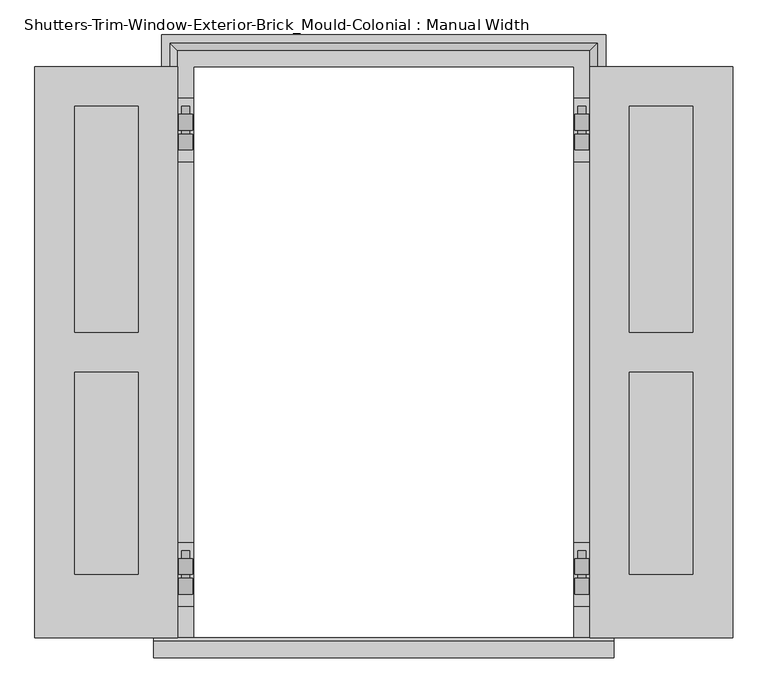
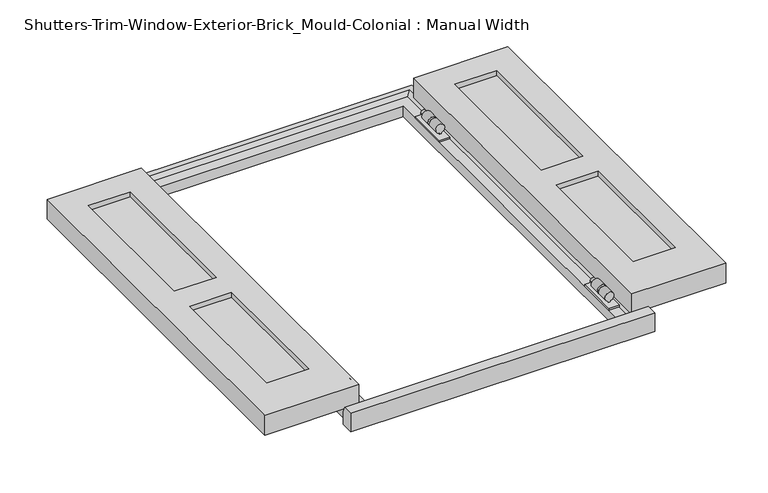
"""IFC4 building model written with IfcOpenShell, lengths in millimetres: proxy geometry, Shutters-Trim-Window-Exterior-Brick_Mould-Colonial : Manual Width."""

from ifc_helpers import new_model, si_unit, frame, origin, place, context, project, spatial, polyline, circle_curve, outline, extrude, faceted_brep, source, transform, mapped, element, save
from ifc_brep_helpers import plane_surface, cylinder_surface, revolved_surface, advanced_brep


def shutters_trim_window_exterior_brick_mould_colonial_manual_04c3bd9f(model_context):
    return source(origin(), model_context, "Body", "SolidModel", [
        extrude(outline(polyline([(-558.8, 0.0), (-330.2, 0.0), (-330.2, -914.4), (-558.8, -914.4), (-558.8, 0.0)]), holes=[polyline([(-495.3, -63.5), (-495.3, -425.45), (-393.7, -425.45), (-393.7, -63.5), (-495.3, -63.5)]), polyline([(-393.7, -488.95), (-495.3, -488.95), (-495.3, -812.8), (-393.7, -812.8), (-393.7, -488.95)])]), frame((0.0, 0.0, 38.89375), z_axis=(0.0, 0.0, 1.0), x_axis=(1.0, 0.0, 0.0)), (0.0, 0.0, 1.0), 50.8),
        extrude(outline(polyline([(-495.3, -63.5), (-393.7, -63.5), (-393.7, -425.45), (-495.3, -425.45), (-495.3, -63.5)])), frame((0.0, 0.0, 51.59375), z_axis=(0.0, 0.0, 1.0), x_axis=(1.0, 0.0, 0.0)), (0.0, 0.0, 1.0), 25.4),
        extrude(outline(polyline([(-393.7, -488.95), (-393.7, -812.8), (-495.3, -812.8), (-495.3, -488.95), (-393.7, -488.95)])), frame((0.0, 0.0, 51.59375), z_axis=(0.0, 0.0, 1.0), x_axis=(1.0, 0.0, 0.0)), (0.0, 0.0, 1.0), 25.4),
        extrude(outline(polyline([(558.8, 0.0), (558.8, -914.4), (330.2, -914.4), (330.2, 0.0), (558.8, 0.0)]), holes=[polyline([(495.3, -63.5), (393.7, -63.5), (393.7, -425.45), (495.3, -425.45), (495.3, -63.5)]), polyline([(393.7, -488.95), (393.7, -812.8), (495.3, -812.8), (495.3, -488.95), (393.7, -488.95)])]), frame((0.0, 0.0, 38.89375), z_axis=(0.0, 0.0, 1.0), x_axis=(1.0, 0.0, 0.0)), (0.0, 0.0, 1.0), 50.8),
        extrude(outline(polyline([(495.3, -63.5), (495.3, -425.45), (393.7, -425.45), (393.7, -63.5), (495.3, -63.5)])), frame((0.0, 0.0, 51.59375), z_axis=(0.0, 0.0, 1.0), x_axis=(1.0, 0.0, 0.0)), (0.0, 0.0, 1.0), 25.4),
        extrude(outline(polyline([(393.7, -488.95), (495.3, -488.95), (495.3, -812.8), (393.7, -812.8), (393.7, -488.95)])), frame((0.0, 0.0, 51.59375), z_axis=(0.0, 0.0, 1.0), x_axis=(1.0, 0.0, 0.0)), (0.0, 0.0, 1.0), 25.4),
        extrude(outline(polyline([(-330.2, -762.0), (-304.8, -762.0), (-304.8, -863.6), (-330.2, -863.6), (-330.2, -762.0)])), frame((0.0, 0.0, 26.19375), z_axis=(0.0, 0.0, 1.0), x_axis=(1.0, 0.0, 0.0)), (0.0, 0.0, 1.0), 4.7625),
        advanced_brep(
        [(-382.5875, -774.7, 38.89375), (-357.124, -774.7, 38.89375), (-357.124, -774.7, 34.13125), (-382.5875, -774.7, 34.13125), (-382.5875, -825.5, 34.13125), (-357.124, -825.5, 34.13125), (-357.124, -825.5, 38.89375), (-382.5875, -825.5, 38.89375), (-357.124, -787.4, 34.13125), (-317.5, -787.4, 34.13125), (-317.5, -812.8, 34.13125), (-357.124, -812.8, 34.13125), (-357.124, -812.8, 38.89375), (-317.5, -812.8, 38.89375), (-317.5, -787.4, 38.89375), (-357.124, -787.4, 38.89375), (-323.85, -812.8, 45.24375), (-323.85, -787.4, 45.24375), (-323.85, -812.8, 40.48125), (-323.85, -787.4, 40.48125), (-328.6125, -812.8, 40.48125), (-328.6125, -787.4, 40.48125), (-328.6125, -812.8, 45.24375), (-328.6125, -787.4, 45.24375)],
        [
            (0, 1),
            (1, 2),
            (2, 3),
            (3, 0),
            (4, 5),
            (5, 6),
            (6, 7),
            (7, 4),
            (2, 8),
            (8, 9),
            (9, 10),
            (10, 11),
            (11, 5),
            (4, 3),
            (7, 0),
            (6, 12),
            (12, 13),
            (13, 14),
            (14, 15),
            (15, 1),
            (16, 17),
            (17, 14, circle_curve(frame((-317.5, -787.4, 45.24375), z_axis=(0.0, 1.0, 0.0), x_axis=(1.0, 0.0, 0.0)), 6.35)),
            (13, 16, circle_curve(frame((-317.5, -812.8, 45.24375), z_axis=(0.0, -1.0, 0.0), x_axis=(1.0, 0.0, 0.0)), 6.35)),
            (18, 19),
            (19, 17),
            (16, 18),
            (20, 21),
            (21, 19),
            (18, 20),
            (22, 23),
            (23, 21),
            (20, 22),
            (9, 23, circle_curve(frame((-317.5, -787.4, 45.24375), z_axis=(0.0, -1.0, 0.0), x_axis=(1.0, 0.0, 0.0)), 11.1125)),
            (22, 10, circle_curve(frame((-317.5, -812.8, 45.24375), z_axis=(0.0, 1.0, 0.0), x_axis=(1.0, 0.0, 0.0)), 11.1125)),
            (12, 11),
            (8, 15),
        ],
        [
            plane_surface(frame((-317.5, -774.7, 45.24375), z_axis=(0.0, 1.0, 0.0), x_axis=(0.0, 0.0, 1.0))),
            plane_surface(frame((-317.5, -825.5, 45.24375), z_axis=(0.0, -1.0, 0.0), x_axis=(0.0, 0.0, 1.0))),
            plane_surface(frame((-382.5875, -774.7, 34.13125), z_axis=(0.0, 0.0, -1.0), x_axis=(0.0, -1.0, 0.0))),
            plane_surface(frame((-382.5875, -774.7, 38.89375), z_axis=(-1.0, 0.0, 0.0), x_axis=(0.0, -1.0, 0.0))),
            plane_surface(frame((-317.5, -774.7, 38.89375), z_axis=(0.0, 0.0, 1.0), x_axis=(0.0, -1.0, 0.0))),
            revolved_surface(polyline([(-311.15, -812.8, 45.24375), (-311.15, -787.4, 45.24375)]), (-317.5, -774.7, 45.24375), (0.0, -1.0, 0.0)),
            plane_surface(frame((-323.85, -774.7, 40.48125), z_axis=(1.0, 0.0, 0.0), x_axis=(0.0, -1.0, 0.0))),
            plane_surface(frame((-328.6125, -774.7, 40.48125), z_axis=(0.0, 0.0, -1.0), x_axis=(0.0, -1.0, 0.0))),
            plane_surface(frame((-328.6125, -774.7, 45.24375), z_axis=(-1.0, 0.0, 0.0), x_axis=(0.0, -1.0, 0.0))),
            cylinder_surface(frame((-317.5, -774.7, 45.24375), z_axis=(0.0, 1.0, 0.0), x_axis=(1.0, 0.0, 0.0)), 11.1125),
            plane_surface(frame((-317.5, -812.8, 45.24375), z_axis=(0.0, -1.0, 0.0), x_axis=(0.0, 0.0, 1.0))),
            plane_surface(frame((-357.124, -812.8, 38.89375), z_axis=(1.0, 0.0, 0.0), x_axis=(0.0, -1.0, 0.0))),
            plane_surface(frame((-317.5, -787.4, 45.24375), z_axis=(0.0, 1.0, 0.0), x_axis=(0.0, 0.0, 1.0))),
            plane_surface(frame((-357.124, -774.7, 38.89375), z_axis=(1.0, 0.0, 0.0), x_axis=(0.0, -1.0, 0.0))),
        ],
        [
            (0, [[1, 2, 3, 4]]),
            (1, [[5, 6, 7, 8]]),
            (2, [[-3, 9, 10, 11, 12, 13, -5, 14]]),
            (3, [[-14, -8, 15, -4]]),
            (4, [[-7, 16, 17, 18, 19, 20, -1, -15]]),
            (5, [[21, 22, -18, 23]]),
            (6, [[24, 25, -21, 26]]),
            (7, [[27, 28, -24, 29]]),
            (8, [[30, 31, -27, 32]]),
            (9, [[-11, 33, -30, 34]]),
            (10, [[-12, -34, -32, -29, -26, -23, -17, 35]]),
            (11, [[-16, -6, -13, -35]]),
            (12, [[-19, -22, -25, -28, -31, -33, -10, 36]]),
            (13, [[-9, -2, -20, -36]]),
        ],
    ),
        advanced_brep(
        [(-319.88125, -819.15, 30.95625), (-319.88125, -819.15, 34.389382), (-315.11875, -819.15, 34.389382), (-315.11875, -819.15, 30.95625), (-311.15, -819.15, 45.24375), (-323.85, -819.15, 45.24375), (-319.88125, -844.55, 30.95625), (-315.11875, -844.55, 30.95625), (-315.11875, -844.55, 34.389382), (-319.88125, -844.55, 34.389382), (-323.85, -774.7, 45.24375), (-311.15, -774.7, 45.24375)],
        [
            (0, 1),
            (1, 2, circle_curve(frame((-317.5, -819.15, 45.24375), z_axis=(0.0, 1.0, 0.0), x_axis=(1.0, 0.0, 0.0)), 11.1125)),
            (2, 3),
            (3, 0),
            (4, 5, circle_curve(frame((-317.5, -819.15, 45.24375), z_axis=(0.0, -1.0, 0.0), x_axis=(1.0, 0.0, 0.0)), 6.35)),
            (5, 4, circle_curve(frame((-317.5, -819.15, 45.24375), z_axis=(0.0, -1.0, 0.0), x_axis=(1.0, 0.0, 0.0)), 6.35)),
            (6, 7),
            (7, 8),
            (8, 9, circle_curve(frame((-317.5, -844.55, 45.24375), z_axis=(0.0, -1.0, 0.0), x_axis=(1.0, 0.0, 0.0)), 11.1125)),
            (9, 6),
            (0, 6),
            (9, 1),
            (3, 7),
            (2, 8),
            (10, 11, circle_curve(frame((-317.5, -774.7, 45.24375), z_axis=(0.0, 1.0, 0.0), x_axis=(1.0, 0.0, 0.0)), 6.35)),
            (11, 10, circle_curve(frame((-317.5, -774.7, 45.24375), z_axis=(0.0, 1.0, 0.0), x_axis=(1.0, 0.0, 0.0)), 6.35)),
            (11, 4),
            (5, 10),
        ],
        [
            plane_surface(frame((-315.11875, -819.15, 30.95625), z_axis=(0.0, 1.0, 0.0), x_axis=(1.0, 0.0, 6.242784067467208e-12))),
            plane_surface(frame((-315.11875, -844.55, 30.95625), z_axis=(0.0, -1.0, 0.0), x_axis=(-1.0, 0.0, -6.242784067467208e-12))),
            plane_surface(frame((-319.88125, -819.15, 34.389382), z_axis=(-1.0, 0.0, 0.0), x_axis=(0.0, -1.0, 0.0))),
            plane_surface(frame((-319.88125, -819.15, 30.95625), z_axis=(6.242784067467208e-12, 0.0, -1.0), x_axis=(0.0, -1.0, 0.0))),
            plane_surface(frame((-315.11875, -819.15, 30.95625), z_axis=(1.0, 0.0, 0.0), x_axis=(0.0, -1.0, 0.0))),
            cylinder_surface(frame((-317.5, -844.55, 45.24375), z_axis=(0.0, 1.0, 0.0), x_axis=(1.0, 0.0, 0.0)), 11.1125),
            plane_surface(frame((-311.15, -774.7, 45.24375), z_axis=(0.0, 1.0, 0.0), x_axis=(0.0, 0.0, 1.0))),
            cylinder_surface(frame((-317.5, -844.55, 45.24375), z_axis=(0.0, 1.0, 0.0), x_axis=(1.0, 0.0, 0.0)), 6.35),
        ],
        [
            (0, [[1, 2, 3, 4], [5, 6]]),
            (1, [[7, 8, 9, 10]]),
            (2, [[11, -10, 12, -1]]),
            (3, [[13, -7, -11, -4]]),
            (4, [[14, -8, -13, -3]]),
            (5, [[-12, -9, -14, -2]]),
            (6, [[15, 16]]),
            (7, [[17, -6, 18, -16]]),
            (7, [[-18, -5, -17, -15]]),
        ],
    ),
        extrude(outline(polyline([(330.2, -762.0), (330.2, -863.6), (304.8, -863.6), (304.8, -762.0), (330.2, -762.0)])), frame((0.0, 0.0, 26.19375), z_axis=(0.0, 0.0, 1.0), x_axis=(1.0, 0.0, 0.0)), (0.0, 0.0, 1.0), 4.7625),
        advanced_brep(
        [(382.5875, -774.7, 38.89375), (382.5875, -774.7, 34.13125), (357.124, -774.7, 34.13125), (357.124, -774.7, 38.89375), (382.5875, -825.5, 34.13125), (382.5875, -825.5, 38.89375), (357.124, -825.5, 38.89375), (357.124, -825.5, 34.13125), (357.124, -812.8, 34.13125), (317.5, -812.8, 34.13125), (317.5, -787.4, 34.13125), (357.124, -787.4, 34.13125), (357.124, -787.4, 38.89375), (317.5, -787.4, 38.89375), (317.5, -812.8, 38.89375), (357.124, -812.8, 38.89375), (323.85, -812.8, 45.24375), (323.85, -787.4, 45.24375), (323.85, -812.8, 40.48125), (323.85, -787.4, 40.48125), (328.6125, -812.8, 40.48125), (328.6125, -787.4, 40.48125), (328.6125, -812.8, 45.24375), (328.6125, -787.4, 45.24375)],
        [
            (0, 1),
            (1, 2),
            (2, 3),
            (3, 0),
            (4, 5),
            (5, 6),
            (6, 7),
            (7, 4),
            (1, 4),
            (7, 8),
            (8, 9),
            (9, 10),
            (10, 11),
            (11, 2),
            (0, 5),
            (3, 12),
            (12, 13),
            (13, 14),
            (14, 15),
            (15, 6),
            (16, 14, circle_curve(frame((317.5, -812.8, 45.24375), z_axis=(0.0, -1.0, 0.0), x_axis=(-1.0, 0.0, 0.0)), 6.35)),
            (13, 17, circle_curve(frame((317.5, -787.4, 45.24375), z_axis=(0.0, 1.0, 0.0), x_axis=(-1.0, 0.0, 0.0)), 6.35)),
            (17, 16),
            (18, 16),
            (17, 19),
            (19, 18),
            (20, 18),
            (19, 21),
            (21, 20),
            (22, 20),
            (21, 23),
            (23, 22),
            (9, 22, circle_curve(frame((317.5, -812.8, 45.24375), z_axis=(0.0, 1.0, 0.0), x_axis=(-1.0, 0.0, 0.0)), 11.1125)),
            (23, 10, circle_curve(frame((317.5, -787.4, 45.24375), z_axis=(0.0, -1.0, 0.0), x_axis=(-1.0, 0.0, 0.0)), 11.1125)),
            (8, 15),
            (12, 11),
        ],
        [
            plane_surface(frame((317.5, -774.7, 45.24375), z_axis=(0.0, 1.0, 0.0), x_axis=(0.0, 0.0, 1.0))),
            plane_surface(frame((317.5, -825.5, 45.24375), z_axis=(0.0, -1.0, 0.0), x_axis=(0.0, 0.0, 1.0))),
            plane_surface(frame((382.5875, -774.7, 34.13125), z_axis=(0.0, 0.0, -1.0), x_axis=(0.0, -1.0, 0.0))),
            plane_surface(frame((382.5875, -774.7, 38.89375), z_axis=(1.0, 0.0, 0.0), x_axis=(0.0, -1.0, 0.0))),
            plane_surface(frame((317.5, -774.7, 38.89375), z_axis=(0.0, 0.0, 1.0), x_axis=(0.0, -1.0, 0.0))),
            revolved_surface(polyline([(311.15, -812.8, 45.24375), (311.15, -787.4, 45.24375)]), (317.5, -774.7, 45.24375), (0.0, -1.0, 0.0)),
            plane_surface(frame((323.85, -774.7, 40.48125), z_axis=(-1.0, 0.0, 0.0), x_axis=(0.0, -1.0, 0.0))),
            plane_surface(frame((328.6125, -774.7, 40.48125), z_axis=(0.0, 0.0, -1.0), x_axis=(0.0, -1.0, 0.0))),
            plane_surface(frame((328.6125, -774.7, 45.24375), z_axis=(1.0, 0.0, 0.0), x_axis=(0.0, -1.0, 0.0))),
            cylinder_surface(frame((317.5, -774.7, 45.24375), z_axis=(0.0, 1.0, 0.0), x_axis=(-1.0, 0.0, 0.0)), 11.1125),
            plane_surface(frame((317.5, -812.8, 45.24375), z_axis=(0.0, -1.0, 0.0), x_axis=(0.0, 0.0, 1.0))),
            plane_surface(frame((357.124, -812.8, 38.89375), z_axis=(-1.0, 0.0, 0.0), x_axis=(0.0, -1.0, 0.0))),
            plane_surface(frame((317.5, -787.4, 45.24375), z_axis=(0.0, 1.0, 0.0), x_axis=(0.0, 0.0, 1.0))),
            plane_surface(frame((357.124, -774.7, 38.89375), z_axis=(-1.0, 0.0, 0.0), x_axis=(0.0, -1.0, 0.0))),
        ],
        [
            (0, [[1, 2, 3, 4]]),
            (1, [[5, 6, 7, 8]]),
            (2, [[9, -8, 10, 11, 12, 13, 14, -2]]),
            (3, [[-1, 15, -5, -9]]),
            (4, [[-15, -4, 16, 17, 18, 19, 20, -6]]),
            (5, [[21, -18, 22, 23]]),
            (6, [[24, -23, 25, 26]]),
            (7, [[27, -26, 28, 29]]),
            (8, [[30, -29, 31, 32]]),
            (9, [[33, -32, 34, -12]]),
            (10, [[35, -19, -21, -24, -27, -30, -33, -11]]),
            (11, [[-35, -10, -7, -20]]),
            (12, [[36, -13, -34, -31, -28, -25, -22, -17]]),
            (13, [[-36, -16, -3, -14]]),
        ],
    ),
        advanced_brep(
        [(319.88125, -819.15, 30.95625), (315.11875, -819.15, 30.95625), (315.11875, -819.15, 34.389382), (319.88125, -819.15, 34.389382), (311.15, -819.15, 45.24375), (323.85, -819.15, 45.24375), (319.88125, -844.55, 30.95625), (319.88125, -844.55, 34.389382), (315.11875, -844.55, 34.389382), (315.11875, -844.55, 30.95625), (323.85, -774.7, 45.24375), (311.15, -774.7, 45.24375)],
        [
            (0, 1),
            (1, 2),
            (2, 3, circle_curve(frame((317.5, -819.15, 45.24375), z_axis=(0.0, 1.0, 0.0), x_axis=(-1.0, 0.0, 0.0)), 11.1125)),
            (3, 0),
            (4, 5, circle_curve(frame((317.5, -819.15, 45.24375), z_axis=(0.0, -1.0, 0.0), x_axis=(-1.0, 0.0, 0.0)), 6.35)),
            (5, 4, circle_curve(frame((317.5, -819.15, 45.24375), z_axis=(0.0, -1.0, 0.0), x_axis=(-1.0, 0.0, 0.0)), 6.35)),
            (6, 7),
            (7, 8, circle_curve(frame((317.5, -844.55, 45.24375), z_axis=(0.0, -1.0, 0.0), x_axis=(-1.0, 0.0, 0.0)), 11.1125)),
            (8, 9),
            (9, 6),
            (3, 7),
            (6, 0),
            (9, 1),
            (8, 2),
            (10, 11, circle_curve(frame((317.5, -774.7, 45.24375), z_axis=(0.0, 1.0, 0.0), x_axis=(-1.0, 0.0, 0.0)), 6.35)),
            (11, 10, circle_curve(frame((317.5, -774.7, 45.24375), z_axis=(0.0, 1.0, 0.0), x_axis=(-1.0, 0.0, 0.0)), 6.35)),
            (10, 5),
            (4, 11),
        ],
        [
            plane_surface(frame((315.11875, -819.15, 30.95625), z_axis=(0.0, 1.0, 0.0), x_axis=(-1.0, 0.0, 6.242784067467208e-12))),
            plane_surface(frame((315.11875, -844.55, 30.95625), z_axis=(0.0, -1.0, 0.0), x_axis=(1.0, 0.0, -6.242784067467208e-12))),
            plane_surface(frame((319.88125, -819.15, 34.389382), z_axis=(1.0, 0.0, 0.0), x_axis=(0.0, -1.0, 0.0))),
            plane_surface(frame((319.88125, -819.15, 30.95625), z_axis=(-6.242784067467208e-12, 0.0, -1.0), x_axis=(0.0, -1.0, 0.0))),
            plane_surface(frame((315.11875, -819.15, 30.95625), z_axis=(-1.0, 0.0, 0.0), x_axis=(0.0, -1.0, 0.0))),
            cylinder_surface(frame((317.5, -844.55, 45.24375), z_axis=(0.0, 1.0, 0.0), x_axis=(-1.0, 0.0, 0.0)), 11.1125),
            plane_surface(frame((311.15, -774.7, 45.24375), z_axis=(0.0, 1.0, 0.0), x_axis=(0.0, 0.0, 1.0))),
            cylinder_surface(frame((317.5, -844.55, 45.24375), z_axis=(0.0, 1.0, 0.0), x_axis=(-1.0, 0.0, 0.0)), 6.35),
        ],
        [
            (0, [[1, 2, 3, 4], [5, 6]]),
            (1, [[7, 8, 9, 10]]),
            (2, [[-4, 11, -7, 12]]),
            (3, [[-1, -12, -10, 13]]),
            (4, [[-2, -13, -9, 14]]),
            (5, [[-3, -14, -8, -11]]),
            (6, [[15, 16]]),
            (7, [[-15, 17, -5, 18]]),
            (7, [[-16, -18, -6, -17]]),
        ],
    ),
        extrude(outline(polyline([(330.2, -50.8), (330.2, -152.4), (304.8, -152.4), (304.8, -50.8), (330.2, -50.8)])), frame((0.0, 0.0, 26.19375), z_axis=(0.0, 0.0, 1.0), x_axis=(1.0, 0.0, 0.0)), (0.0, 0.0, 1.0), 4.7625),
        advanced_brep(
        [(382.5875, -63.5, 38.89375), (382.5875, -63.5, 34.13125), (357.124, -63.5, 34.13125), (357.124, -63.5, 38.89375), (382.5875, -114.3, 34.13125), (382.5875, -114.3, 38.89375), (357.124, -114.3, 38.89375), (357.124, -114.3, 34.13125), (357.124, -101.6, 34.13125), (317.5, -101.6, 34.13125), (317.5, -76.2, 34.13125), (357.124, -76.2, 34.13125), (357.124, -76.2, 38.89375), (317.5, -76.2, 38.89375), (317.5, -101.6, 38.89375), (357.124, -101.6, 38.89375), (323.85, -101.6, 45.24375), (323.85, -76.2, 45.24375), (323.85, -101.6, 40.48125), (323.85, -76.2, 40.48125), (328.6125, -101.6, 40.48125), (328.6125, -76.2, 40.48125), (328.6125, -101.6, 45.24375), (328.6125, -76.2, 45.24375)],
        [
            (0, 1),
            (1, 2),
            (2, 3),
            (3, 0),
            (4, 5),
            (5, 6),
            (6, 7),
            (7, 4),
            (1, 4),
            (7, 8),
            (8, 9),
            (9, 10),
            (10, 11),
            (11, 2),
            (0, 5),
            (3, 12),
            (12, 13),
            (13, 14),
            (14, 15),
            (15, 6),
            (16, 14, circle_curve(frame((317.5, -101.6, 45.24375), z_axis=(0.0, -1.0, 0.0), x_axis=(-1.0, 0.0, 0.0)), 6.35)),
            (13, 17, circle_curve(frame((317.5, -76.2, 45.24375), z_axis=(0.0, 1.0, 0.0), x_axis=(-1.0, 0.0, 0.0)), 6.35)),
            (17, 16),
            (18, 16),
            (17, 19),
            (19, 18),
            (20, 18),
            (19, 21),
            (21, 20),
            (22, 20),
            (21, 23),
            (23, 22),
            (9, 22, circle_curve(frame((317.5, -101.6, 45.24375), z_axis=(0.0, 1.0, 0.0), x_axis=(-1.0, 0.0, 0.0)), 11.1125)),
            (23, 10, circle_curve(frame((317.5, -76.2, 45.24375), z_axis=(0.0, -1.0, 0.0), x_axis=(-1.0, 0.0, 0.0)), 11.1125)),
            (8, 15),
            (12, 11),
        ],
        [
            plane_surface(frame((317.5, -63.5, 45.24375), z_axis=(0.0, 1.0, 0.0), x_axis=(0.0, 0.0, 1.0))),
            plane_surface(frame((317.5, -114.3, 45.24375), z_axis=(0.0, -1.0, 0.0), x_axis=(0.0, 0.0, 1.0))),
            plane_surface(frame((382.5875, -63.5, 34.13125), z_axis=(0.0, 0.0, -1.0), x_axis=(0.0, -1.0, 0.0))),
            plane_surface(frame((382.5875, -63.5, 38.89375), z_axis=(1.0, 0.0, 0.0), x_axis=(0.0, -1.0, 0.0))),
            plane_surface(frame((317.5, -63.5, 38.89375), z_axis=(0.0, 0.0, 1.0), x_axis=(0.0, -1.0, 0.0))),
            revolved_surface(polyline([(311.15, -101.6, 45.24375), (311.15, -76.2, 45.24375)]), (317.5, -63.5, 45.24375), (0.0, -1.0, 0.0)),
            plane_surface(frame((323.85, -63.5, 40.48125), z_axis=(-1.0, 0.0, 0.0), x_axis=(0.0, -1.0, 0.0))),
            plane_surface(frame((328.6125, -63.5, 40.48125), z_axis=(0.0, 0.0, -1.0), x_axis=(0.0, -1.0, 0.0))),
            plane_surface(frame((328.6125, -63.5, 45.24375), z_axis=(1.0, 0.0, 0.0), x_axis=(0.0, -1.0, 0.0))),
            cylinder_surface(frame((317.5, -63.5, 45.24375), z_axis=(0.0, 1.0, 0.0), x_axis=(-1.0, 0.0, 0.0)), 11.1125),
            plane_surface(frame((317.5, -101.6, 45.24375), z_axis=(0.0, -1.0, 0.0), x_axis=(0.0, 0.0, 1.0))),
            plane_surface(frame((357.124, -101.6, 38.89375), z_axis=(-1.0, 0.0, 0.0), x_axis=(0.0, -1.0, 0.0))),
            plane_surface(frame((317.5, -76.2, 45.24375), z_axis=(0.0, 1.0, 0.0), x_axis=(0.0, 0.0, 1.0))),
            plane_surface(frame((357.124, -63.5, 38.89375), z_axis=(-1.0, 0.0, 0.0), x_axis=(0.0, -1.0, 0.0))),
        ],
        [
            (0, [[1, 2, 3, 4]]),
            (1, [[5, 6, 7, 8]]),
            (2, [[9, -8, 10, 11, 12, 13, 14, -2]]),
            (3, [[-1, 15, -5, -9]]),
            (4, [[-15, -4, 16, 17, 18, 19, 20, -6]]),
            (5, [[21, -18, 22, 23]]),
            (6, [[24, -23, 25, 26]]),
            (7, [[27, -26, 28, 29]]),
            (8, [[30, -29, 31, 32]]),
            (9, [[33, -32, 34, -12]]),
            (10, [[35, -19, -21, -24, -27, -30, -33, -11]]),
            (11, [[-35, -10, -7, -20]]),
            (12, [[36, -13, -34, -31, -28, -25, -22, -17]]),
            (13, [[-36, -16, -3, -14]]),
        ],
    ),
        advanced_brep(
        [(319.88125, -107.95, 30.95625), (315.11875, -107.95, 30.95625), (315.11875, -107.95, 34.389382), (319.88125, -107.95, 34.389382), (311.15, -107.95, 45.24375), (323.85, -107.95, 45.24375), (319.88125, -133.35, 30.95625), (319.88125, -133.35, 34.389382), (315.11875, -133.35, 34.389382), (315.11875, -133.35, 30.95625), (323.85, -63.5, 45.24375), (311.15, -63.5, 45.24375)],
        [
            (0, 1),
            (1, 2),
            (2, 3, circle_curve(frame((317.5, -107.95, 45.24375), z_axis=(0.0, 1.0, 0.0), x_axis=(-1.0, 0.0, 0.0)), 11.1125)),
            (3, 0),
            (4, 5, circle_curve(frame((317.5, -107.95, 45.24375), z_axis=(0.0, -1.0, 0.0), x_axis=(-1.0, 0.0, 0.0)), 6.35)),
            (5, 4, circle_curve(frame((317.5, -107.95, 45.24375), z_axis=(0.0, -1.0, 0.0), x_axis=(-1.0, 0.0, 0.0)), 6.35)),
            (6, 7),
            (7, 8, circle_curve(frame((317.5, -133.35, 45.24375), z_axis=(0.0, -1.0, 0.0), x_axis=(-1.0, 0.0, 0.0)), 11.1125)),
            (8, 9),
            (9, 6),
            (3, 7),
            (6, 0),
            (9, 1),
            (8, 2),
            (10, 11, circle_curve(frame((317.5, -63.5, 45.24375), z_axis=(0.0, 1.0, 0.0), x_axis=(-1.0, 0.0, 0.0)), 6.35)),
            (11, 10, circle_curve(frame((317.5, -63.5, 45.24375), z_axis=(0.0, 1.0, 0.0), x_axis=(-1.0, 0.0, 0.0)), 6.35)),
            (10, 5),
            (4, 11),
        ],
        [
            plane_surface(frame((315.11875, -107.95, 30.95625), z_axis=(0.0, 1.0, 0.0), x_axis=(-1.0, 0.0, 6.242784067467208e-12))),
            plane_surface(frame((315.11875, -133.35, 30.95625), z_axis=(0.0, -1.0, 0.0), x_axis=(1.0, 0.0, -6.242784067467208e-12))),
            plane_surface(frame((319.88125, -107.95, 34.389382), z_axis=(1.0, 0.0, 0.0), x_axis=(0.0, -1.0, 0.0))),
            plane_surface(frame((319.88125, -107.95, 30.95625), z_axis=(-6.242784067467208e-12, 0.0, -1.0), x_axis=(0.0, -1.0, 0.0))),
            plane_surface(frame((315.11875, -107.95, 30.95625), z_axis=(-1.0, 0.0, 0.0), x_axis=(0.0, -1.0, 0.0))),
            cylinder_surface(frame((317.5, -133.35, 45.24375), z_axis=(0.0, 1.0, 0.0), x_axis=(-1.0, 0.0, 0.0)), 11.1125),
            plane_surface(frame((311.15, -63.5, 45.24375), z_axis=(0.0, 1.0, 0.0), x_axis=(0.0, 0.0, 1.0))),
            cylinder_surface(frame((317.5, -133.35, 45.24375), z_axis=(0.0, 1.0, 0.0), x_axis=(-1.0, 0.0, 0.0)), 6.35),
        ],
        [
            (0, [[1, 2, 3, 4], [5, 6]]),
            (1, [[7, 8, 9, 10]]),
            (2, [[-4, 11, -7, 12]]),
            (3, [[-1, -12, -10, 13]]),
            (4, [[-2, -13, -9, 14]]),
            (5, [[-3, -14, -8, -11]]),
            (6, [[15, 16]]),
            (7, [[-15, 17, -5, 18]]),
            (7, [[-16, -18, -6, -17]]),
        ],
    ),
        extrude(outline(polyline([(-330.2, -50.8), (-304.8, -50.8), (-304.8, -152.4), (-330.2, -152.4), (-330.2, -50.8)])), frame((0.0, 0.0, 26.19375), z_axis=(0.0, 0.0, 1.0), x_axis=(1.0, 0.0, 0.0)), (0.0, 0.0, 1.0), 4.7625),
        advanced_brep(
        [(-382.5875, -63.5, 38.89375), (-357.124, -63.5, 38.89375), (-357.124, -63.5, 34.13125), (-382.5875, -63.5, 34.13125), (-382.5875, -114.3, 34.13125), (-357.124, -114.3, 34.13125), (-357.124, -114.3, 38.89375), (-382.5875, -114.3, 38.89375), (-357.124, -76.2, 34.13125), (-317.5, -76.2, 34.13125), (-317.5, -101.6, 34.13125), (-357.124, -101.6, 34.13125), (-357.124, -101.6, 38.89375), (-317.5, -101.6, 38.89375), (-317.5, -76.2, 38.89375), (-357.124, -76.2, 38.89375), (-323.85, -101.6, 45.24375), (-323.85, -76.2, 45.24375), (-323.85, -101.6, 40.48125), (-323.85, -76.2, 40.48125), (-328.6125, -101.6, 40.48125), (-328.6125, -76.2, 40.48125), (-328.6125, -101.6, 45.24375), (-328.6125, -76.2, 45.24375)],
        [
            (0, 1),
            (1, 2),
            (2, 3),
            (3, 0),
            (4, 5),
            (5, 6),
            (6, 7),
            (7, 4),
            (2, 8),
            (8, 9),
            (9, 10),
            (10, 11),
            (11, 5),
            (4, 3),
            (7, 0),
            (6, 12),
            (12, 13),
            (13, 14),
            (14, 15),
            (15, 1),
            (16, 17),
            (17, 14, circle_curve(frame((-317.5, -76.2, 45.24375), z_axis=(0.0, 1.0, 0.0), x_axis=(1.0, 0.0, 0.0)), 6.35)),
            (13, 16, circle_curve(frame((-317.5, -101.6, 45.24375), z_axis=(0.0, -1.0, 0.0), x_axis=(1.0, 0.0, 0.0)), 6.35)),
            (18, 19),
            (19, 17),
            (16, 18),
            (20, 21),
            (21, 19),
            (18, 20),
            (22, 23),
            (23, 21),
            (20, 22),
            (9, 23, circle_curve(frame((-317.5, -76.2, 45.24375), z_axis=(0.0, -1.0, 0.0), x_axis=(1.0, 0.0, 0.0)), 11.1125)),
            (22, 10, circle_curve(frame((-317.5, -101.6, 45.24375), z_axis=(0.0, 1.0, 0.0), x_axis=(1.0, 0.0, 0.0)), 11.1125)),
            (12, 11),
            (8, 15),
        ],
        [
            plane_surface(frame((-317.5, -63.5, 45.24375), z_axis=(0.0, 1.0, 0.0), x_axis=(0.0, 0.0, 1.0))),
            plane_surface(frame((-317.5, -114.3, 45.24375), z_axis=(0.0, -1.0, 0.0), x_axis=(0.0, 0.0, 1.0))),
            plane_surface(frame((-382.5875, -63.5, 34.13125), z_axis=(0.0, 0.0, -1.0), x_axis=(0.0, -1.0, 0.0))),
            plane_surface(frame((-382.5875, -63.5, 38.89375), z_axis=(-1.0, 0.0, 0.0), x_axis=(0.0, -1.0, 0.0))),
            plane_surface(frame((-317.5, -63.5, 38.89375), z_axis=(0.0, 0.0, 1.0), x_axis=(0.0, -1.0, 0.0))),
            revolved_surface(polyline([(-311.15, -101.6, 45.24375), (-311.15, -76.2, 45.24375)]), (-317.5, -63.5, 45.24375), (0.0, -1.0, 0.0)),
            plane_surface(frame((-323.85, -63.5, 40.48125), z_axis=(1.0, 0.0, 0.0), x_axis=(0.0, -1.0, 0.0))),
            plane_surface(frame((-328.6125, -63.5, 40.48125), z_axis=(0.0, 0.0, -1.0), x_axis=(0.0, -1.0, 0.0))),
            plane_surface(frame((-328.6125, -63.5, 45.24375), z_axis=(-1.0, 0.0, 0.0), x_axis=(0.0, -1.0, 0.0))),
            cylinder_surface(frame((-317.5, -63.5, 45.24375), z_axis=(0.0, 1.0, 0.0), x_axis=(1.0, 0.0, 0.0)), 11.1125),
            plane_surface(frame((-317.5, -101.6, 45.24375), z_axis=(0.0, -1.0, 0.0), x_axis=(0.0, 0.0, 1.0))),
            plane_surface(frame((-357.124, -101.6, 38.89375), z_axis=(1.0, 0.0, 0.0), x_axis=(0.0, -1.0, 0.0))),
            plane_surface(frame((-317.5, -76.2, 45.24375), z_axis=(0.0, 1.0, 0.0), x_axis=(0.0, 0.0, 1.0))),
            plane_surface(frame((-357.124, -63.5, 38.89375), z_axis=(1.0, 0.0, 0.0), x_axis=(0.0, -1.0, 0.0))),
        ],
        [
            (0, [[1, 2, 3, 4]]),
            (1, [[5, 6, 7, 8]]),
            (2, [[-3, 9, 10, 11, 12, 13, -5, 14]]),
            (3, [[-14, -8, 15, -4]]),
            (4, [[-7, 16, 17, 18, 19, 20, -1, -15]]),
            (5, [[21, 22, -18, 23]]),
            (6, [[24, 25, -21, 26]]),
            (7, [[27, 28, -24, 29]]),
            (8, [[30, 31, -27, 32]]),
            (9, [[-11, 33, -30, 34]]),
            (10, [[-12, -34, -32, -29, -26, -23, -17, 35]]),
            (11, [[-16, -6, -13, -35]]),
            (12, [[-19, -22, -25, -28, -31, -33, -10, 36]]),
            (13, [[-9, -2, -20, -36]]),
        ],
    ),
        advanced_brep(
        [(-319.88125, -107.95, 30.95625), (-319.88125, -107.95, 34.389382), (-315.11875, -107.95, 34.389382), (-315.11875, -107.95, 30.95625), (-311.15, -107.95, 45.24375), (-323.85, -107.95, 45.24375), (-319.88125, -133.35, 30.95625), (-315.11875, -133.35, 30.95625), (-315.11875, -133.35, 34.389382), (-319.88125, -133.35, 34.389382), (-323.85, -63.5, 45.24375), (-311.15, -63.5, 45.24375)],
        [
            (0, 1),
            (1, 2, circle_curve(frame((-317.5, -107.95, 45.24375), z_axis=(0.0, 1.0, 0.0), x_axis=(1.0, 0.0, 0.0)), 11.1125)),
            (2, 3),
            (3, 0),
            (4, 5, circle_curve(frame((-317.5, -107.95, 45.24375), z_axis=(0.0, -1.0, 0.0), x_axis=(1.0, 0.0, 0.0)), 6.35)),
            (5, 4, circle_curve(frame((-317.5, -107.95, 45.24375), z_axis=(0.0, -1.0, 0.0), x_axis=(1.0, 0.0, 0.0)), 6.35)),
            (6, 7),
            (7, 8),
            (8, 9, circle_curve(frame((-317.5, -133.35, 45.24375), z_axis=(0.0, -1.0, 0.0), x_axis=(1.0, 0.0, 0.0)), 11.1125)),
            (9, 6),
            (0, 6),
            (9, 1),
            (3, 7),
            (2, 8),
            (10, 11, circle_curve(frame((-317.5, -63.5, 45.24375), z_axis=(0.0, 1.0, 0.0), x_axis=(1.0, 0.0, 0.0)), 6.35)),
            (11, 10, circle_curve(frame((-317.5, -63.5, 45.24375), z_axis=(0.0, 1.0, 0.0), x_axis=(1.0, 0.0, 0.0)), 6.35)),
            (11, 4),
            (5, 10),
        ],
        [
            plane_surface(frame((-315.11875, -107.95, 30.95625), z_axis=(0.0, 1.0, 0.0), x_axis=(1.0, 0.0, 6.242784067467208e-12))),
            plane_surface(frame((-315.11875, -133.35, 30.95625), z_axis=(0.0, -1.0, 0.0), x_axis=(-1.0, 0.0, -6.242784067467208e-12))),
            plane_surface(frame((-319.88125, -107.95, 34.389382), z_axis=(-1.0, 0.0, 0.0), x_axis=(0.0, -1.0, 0.0))),
            plane_surface(frame((-319.88125, -107.95, 30.95625), z_axis=(6.242784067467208e-12, 0.0, -1.0), x_axis=(0.0, -1.0, 0.0))),
            plane_surface(frame((-315.11875, -107.95, 30.95625), z_axis=(1.0, 0.0, 0.0), x_axis=(0.0, -1.0, 0.0))),
            cylinder_surface(frame((-317.5, -133.35, 45.24375), z_axis=(0.0, 1.0, 0.0), x_axis=(1.0, 0.0, 0.0)), 11.1125),
            plane_surface(frame((-311.15, -63.5, 45.24375), z_axis=(0.0, 1.0, 0.0), x_axis=(0.0, 0.0, 1.0))),
            cylinder_surface(frame((-317.5, -133.35, 45.24375), z_axis=(0.0, 1.0, 0.0), x_axis=(1.0, 0.0, 0.0)), 6.35),
        ],
        [
            (0, [[1, 2, 3, 4], [5, 6]]),
            (1, [[7, 8, 9, 10]]),
            (2, [[11, -10, 12, -1]]),
            (3, [[13, -7, -11, -4]]),
            (4, [[14, -8, -13, -3]]),
            (5, [[-12, -9, -14, -2]]),
            (6, [[15, 16]]),
            (7, [[17, -6, 18, -16]]),
            (7, [[-18, -5, -17, -15]]),
        ],
    ),
        extrude(outline(polyline([(-914.4, 31.75), (-914.4, 0.0), (-946.15, 0.0), (-946.15, 47.625), (-920.1780275, 47.625), (-914.4, 31.75)])), frame((-368.3, 0.0, 0.0), z_axis=(1.0, 0.0, 0.0), x_axis=(0.0, 1.0, 0.0)), (0.0, 0.0, 1.0), 736.6),
        faceted_brep([(355.6, -914.4, 0.0), (355.6, -914.4, 31.75), (342.9, -914.4, 31.75), (330.2, -914.4, 26.19375), (304.8, -914.4, 26.19375), (304.8, -914.4, 0.0), (-355.6, -914.4, 0.0), (-304.8, -914.4, 0.0), (-304.8, -914.4, 26.19375), (-330.2, -914.4, 26.19375), (-342.9, -914.4, 31.75), (-355.6, -914.4, 31.75), (355.6, 50.8, 0.0), (355.6, 50.8, 31.75), (-355.6, 50.8, 31.75), (-342.9, 38.1, 31.75), (342.9, 38.1, 31.75), (330.2, 25.4, 26.19375), (-330.2, 25.4, 26.19375), (-304.8, 0.0, 26.19375), (304.8, 0.0, 26.19375), (304.8, 0.0, 0.0), (-304.8, 0.0, 0.0), (-355.6, 50.8, 0.0)], [[[0, 1, 2, 3, 4, 5]], [[6, 7, 8, 9, 10, 11]], [[1, 0, 12, 13]], [[2, 1, 13, 14, 11, 10, 15, 16]], [[3, 2, 16, 17]], [[4, 3, 17, 18, 9, 8, 19, 20]], [[5, 4, 20, 21]], [[0, 5, 21, 22, 7, 6, 23, 12]], [[13, 12, 23, 14]], [[17, 16, 15, 18]], [[21, 20, 19, 22]], [[14, 23, 6, 11]], [[18, 15, 10, 9]], [[22, 19, 8, 7]]]),
    ])


if __name__ == "__main__":
    model = new_model("IFC4")
    model_context = context("Model", 3, world=origin())
    ifc_project = project(units=[si_unit("LENGTHUNIT", "METRE", prefix="MILLI")], contexts=[model_context])
    site = spatial("IfcSite", under=ifc_project)
    building = spatial("IfcBuilding", under=site)
    placement = place(None, origin())
    shutters_trim_window_exterior_brick_mould_colonial_manual_shape = shutters_trim_window_exterior_brick_mould_colonial_manual_04c3bd9f(model_context)
    element("IfcBuildingElementProxy", 1, Name="Shutters-Trim-Window-Exterior-Brick_Mould-Colonial : Manual Width", ObjectType="Shutters-Trim-Window-Exterior-Brick_Mould-Colonial : Manual Width", at=placement, inside=building, context=model_context, shape_type="MappedRepresentation", body=[
        mapped(shutters_trim_window_exterior_brick_mould_colonial_manual_shape, transform((0.0, 0.0, 0.0), x_axis=(1.0, 0.0, 0.0), y_axis=(0.0, 1.0, 0.0), z_axis=(0.0, 0.0, 1.0))),
    ])
    save(model, "model.ifc")
